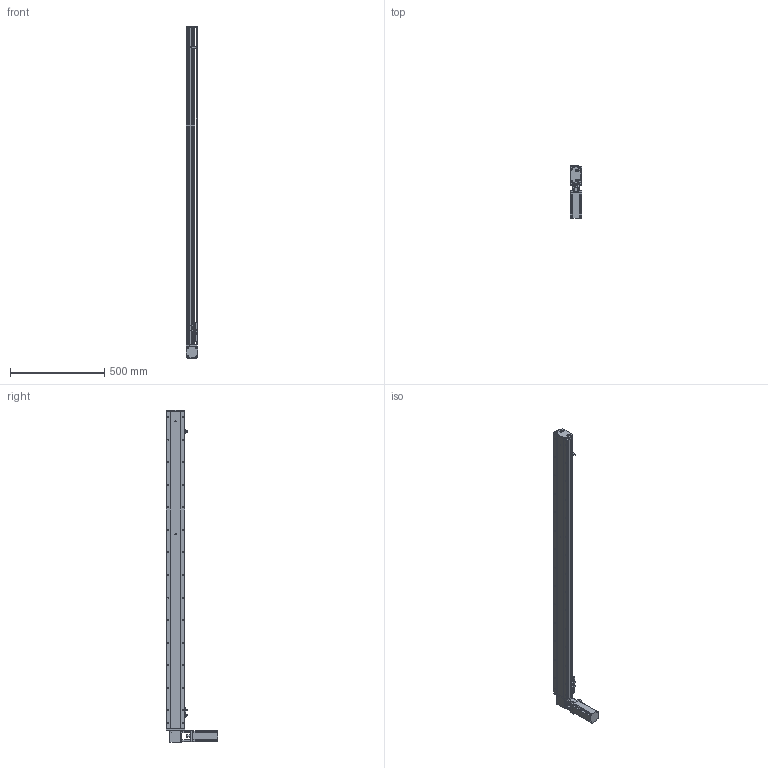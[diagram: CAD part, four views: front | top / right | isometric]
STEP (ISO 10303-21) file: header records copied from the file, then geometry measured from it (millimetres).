
FILE_DESCRIPTION (( 'STEP AP214' ), '1' );
FILE_NAME ('KSD100B-S1500-MLT-CM.STEP', '2019-10-26T06:01:09', ( '微软用户' ), ( '微软中国' ), 'SwSTEP 2.0', 'SolidWorks 2014', '' );
FILE_SCHEMA (( 'AUTOMOTIVE_DESIGN' ));
Length unit declared in the file: millimetre
Products named in the file (12): KSD100B-S1500-MLT-CM; 100宽安装板同步带带电机座400W,86; 100遵鎮湛假蚾啣1 ; 100宽防尘板1500行程-同步带; U倰嫖萇EEㄜSX672; 覜茼え100遵圉猾敕; 台达ECMA－C20604AS伺服电机; 100宽马达安装板同步带右; 100宽同步带安装板半封闭; 100宽马达安装板同步带; 100遵傷啣肮祭湍; 100宽底板半封闭同步带1500行程
Assembly tree (13 placements, depth 2):
  KSD100B-S1500-MLT-CM
    100宽底板半封闭同步带1500行程
    100遵傷啣肮祭湍
    100宽马达安装板同步带
    100宽同步带安装板半封闭
    100宽马达安装板同步带右
    台达ECMA－C20604AS伺服电机
    覜茼え100遵圉猾敕
    U倰嫖萇EEㄜSX672  x3
    100宽防尘板1500行程-同步带
    100遵鎮湛假蚾啣1 
    100宽安装板同步带带电机座400W,86
Bounding box: 61 x 275 x 1765 mm (x, y, z)
Volume: 3717118.2 mm3; surface area: 1244727.2 mm2
Topology: 14 solids, 14 shells, 1610 faces, 4559 edges, 2877 vertices
Faces by surface type: cylinder 844, plane 595, cone 171
Entity records: 58115 total; most frequent: CARTESIAN_POINT 12476, DIRECTION 7959, ORIENTED_EDGE 7682, EDGE_CURVE 3841, AXIS2_PLACEMENT_3D 2946, VERTEX_POINT 2501, LINE 2067, VECTOR 2067
